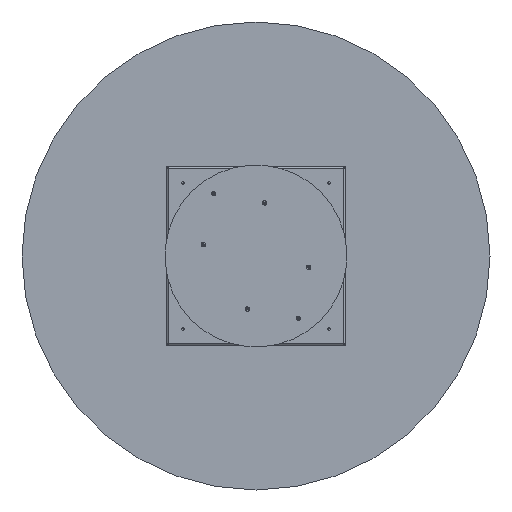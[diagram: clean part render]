
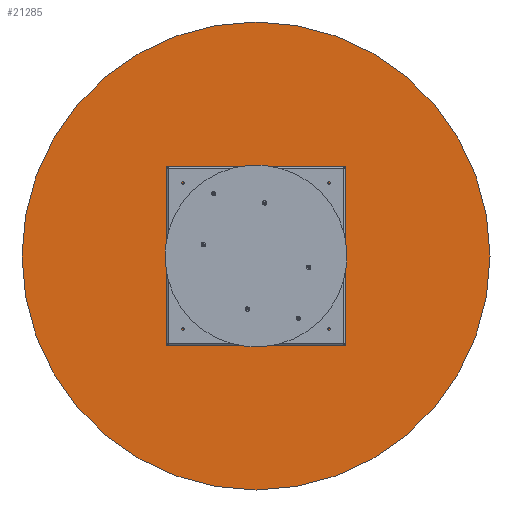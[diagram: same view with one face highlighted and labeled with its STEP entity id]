
A CAD part, front view. The second image highlights one B-rep face of the part: STEP entity #21285.
In plain terms, the highlighted planar face has unit normal (0, -1, 0).
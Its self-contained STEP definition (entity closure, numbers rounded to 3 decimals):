
#284 = DIRECTION ( 'NONE',  ( 0., 0., -1. ) ) ;
#741 = DIRECTION ( 'NONE',  ( 0., -1., 0. ) ) ;
#908 = EDGE_CURVE ( 'NONE', #21584, #2729, #17278, .T. ) ;
#1021 = CARTESIAN_POINT ( 'NONE',  ( 0., 0., 900. ) ) ;
#2729 = VERTEX_POINT ( 'NONE', #3146 ) ;
#2835 = EDGE_CURVE ( 'NONE', #2729, #21584, #14644, .T. ) ;
#3146 = CARTESIAN_POINT ( 'NONE',  ( 0., 0., -900. ) ) ;
#3221 = DIRECTION ( 'NONE',  ( 0., 0., -1. ) ) ;
#3394 = EDGE_LOOP ( 'NONE', ( #8205, #8976 ) ) ;
#4376 = AXIS2_PLACEMENT_3D ( 'NONE', #11976, #15528, #4750 ) ;
#4750 = DIRECTION ( 'NONE',  ( 0., 0., -1. ) ) ;
#8205 = ORIENTED_EDGE ( 'NONE', *, *, #2835, .T. ) ;
#8976 = ORIENTED_EDGE ( 'NONE', *, *, #908, .T. ) ;
#8998 = CARTESIAN_POINT ( 'NONE',  ( 0., 0., 0. ) ) ;
#10454 = FACE_OUTER_BOUND ( 'NONE', #3394, .T. ) ;
#10701 = AXIS2_PLACEMENT_3D ( 'NONE', #8998, #741, #284 ) ;
#11976 = CARTESIAN_POINT ( 'NONE',  ( 0., 0., 0. ) ) ;
#14186 = AXIS2_PLACEMENT_3D ( 'NONE', #22425, #20622, #3221 ) ;
#14644 = CIRCLE ( 'NONE', #4376, 900. ) ;
#15528 = DIRECTION ( 'NONE',  ( 0., -1., 0. ) ) ;
#17278 = CIRCLE ( 'NONE', #10701, 900. ) ;
#17426 = PLANE ( 'NONE',  #14186 ) ;
#20622 = DIRECTION ( 'NONE',  ( 0., -1., 0. ) ) ;
#21285 = ADVANCED_FACE ( 'NONE', ( #10454 ), #17426, .T. ) ;
#21584 = VERTEX_POINT ( 'NONE', #1021 ) ;
#22425 = CARTESIAN_POINT ( 'NONE',  ( 0., 0., 0. ) ) ;
